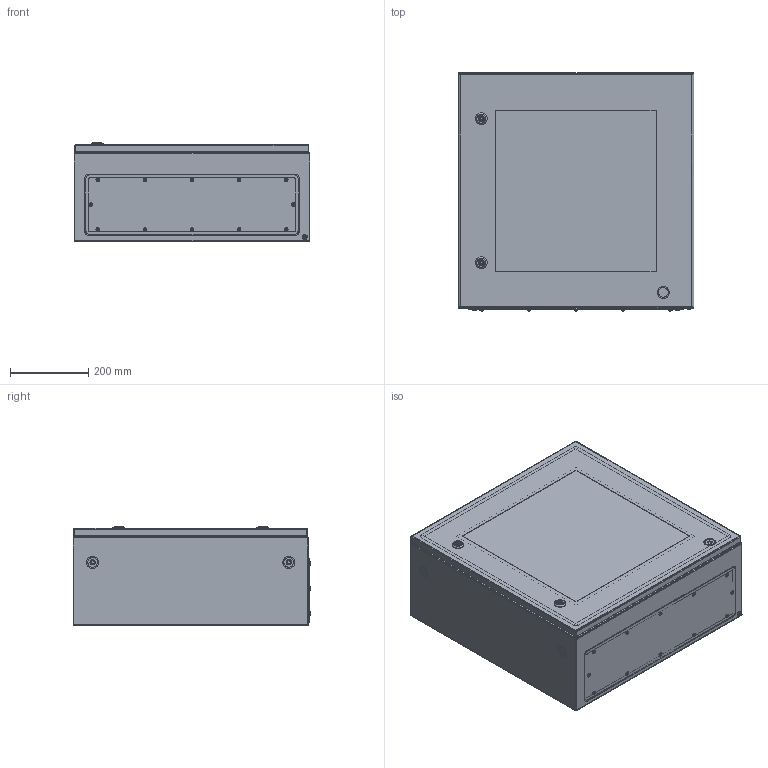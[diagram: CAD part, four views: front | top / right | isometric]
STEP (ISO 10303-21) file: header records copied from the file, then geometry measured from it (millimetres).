
FILE_DESCRIPTION (( 'STEP AP214' ), '1' );
FILE_NAME ('CCV 60.60.25.STEP', '2025-09-18T13:42:43', ( '' ), ( '' ), 'SwSTEP 2.0', 'SolidWorks 2019', '' );
FILE_SCHEMA (( 'AUTOMOTIVE_DESIGN' ));
Length unit declared in the file: millimetre
Products named in the file (28): Essentra_d9.3_055009300003; Øïèëüêà çàçåìëåíèÿ Ì6õ17,5_˜¯¨«ìª  § §¥¬«¥­¨ï Œ6å17,5; Çàìîê LC 5DB.S_‡ ¬®ª LC 5DB.S_45mm; CCV X.Y.02.000蚜 拟屦黖CCV 60.60; CCS X.Y.Z.01.000捘 扻豵鵨_CCS 60.60.25; PKV Y.15 相礤朦 赅徨朦眍泐 忖钿郷PKV 60(15); CCS X.Y.Z.01.001 扻豵鵨_CCS 60.60.25; KIT_Çàæèìíîå êîëüöî_ïîëèîêñèìåòèëåí_ô5_EMKA 1031-U16; Ïåòëÿ KIT_Ìîäóëü_êîðïóñíàÿ ÷àñòü; Ïåòëÿ KIT_Ìîäóëü_êîðïóñíàÿ ÷àñòü â ñáîðå; ﾇ瑟鶴 LC 5DB.S; Ïåòëÿ ïðèâàðíàÿ ÷àñòü; Essentra_d6,3_1287228; ßçû÷îê çàìêà LC 5DB.S; CCV X.Y.02.002 栺樏鋋_CCV 60.60; CCV X.Y.02.001 拟屦黖CCV 60.60; Øïèëüêà Ì8õ25; pan head cross recess screw_din_DIN EN ISO 7045 - M5 x 6 - Z - 6N; CCV 60.60.25; hex flange nut_din_Hexagon Flange Nut DIN 6923 - M8 - N; plain washer grade a_din_Washer DIN 125 - A 5.3; Ãàéêà Ì8 DIN 934; Øïèëüêà çàçåìëåíèÿ Ì6õ17,5_˜¯¨«ìª  § §¥¬«¥­¨ï Œ6å17,5 á ª®«¯ çª®¬; KIT_Øòèôò_ô5_Ìîäóëü; Âèíò ðåçüáîâûäàâëèâàþùèé ñ ïîëóïîòàéíîé ãîëîâêîé Ì5õ12; MPC X.Y Ïàíåëü ìîíòàæíàÿ_MPC 60.60
Assembly tree (61 placements, depth 3):
  CCV 60.60.25
    CCS X.Y.Z.01.000捘 扻豵鵨_CCS 60.60.25
      CCS X.Y.Z.01.001 扻豵鵨_CCS 60.60.25
      Øïèëüêà çàçåìëåíèÿ Ì6õ17,5_˜¯¨«ìª  § §¥¬«¥­¨ï Œ6å17,5  x4
      Øïèëüêà Ì8õ25  x4
    Ïåòëÿ KIT_Ìîäóëü_êîðïóñíàÿ ÷àñòü â ñáîðå
      Ïåòëÿ KIT_Ìîäóëü_êîðïóñíàÿ ÷àñòü
      KIT_Øòèôò_ô5_Ìîäóëü
      KIT_Çàæèìíîå êîëüöî_ïîëèîêñèìåòèëåí_ô5_EMKA 1031-U16
    Ïåòëÿ KIT_Ìîäóëü_êîðïóñíàÿ ÷àñòü â ñáîðå
      Ïåòëÿ KIT_Ìîäóëü_êîðïóñíàÿ ÷àñòü
      KIT_Øòèôò_ô5_Ìîäóëü
      KIT_Çàæèìíîå êîëüöî_ïîëèîêñèìåòèëåí_ô5_EMKA 1031-U16
    CCV X.Y.02.000蚜 拟屦黖CCV 60.60
      CCV X.Y.02.001 拟屦黖CCV 60.60
      Øïèëüêà çàçåìëåíèÿ Ì6õ17,5_˜¯¨«ìª  § §¥¬«¥­¨ï Œ6å17,5 á ª®«¯ çª®¬
      CCV X.Y.02.002 栺樏鋋_CCV 60.60
      Ïåòëÿ ïðèâàðíàÿ ÷àñòü  x2
    MPC X.Y Ïàíåëü ìîíòàæíàÿ_MPC 60.60
    PKV Y.15 相礤朦 赅徨朦眍泐 忖钿郷PKV 60(15)
    pan head cross recess screw_din_DIN EN ISO 7045 - M5 x 6 - Z - 6N  x2
    plain washer grade a_din_Washer DIN 125 - A 5.3  x2
    Ãàéêà Ì8 DIN 934  x4
    hex flange nut_din_Hexagon Flange Nut DIN 6923 - M8 - N  x4
    Âèíò ðåçüáîâûäàâëèâàþùèé ñ ïîëóïîòàéíîé ãîëîâêîé Ì5õ12  x14
    Essentra_d9.3_055009300003
    Essentra_d6,3_1287228  x2
    Çàìîê LC 5DB.S_‡ ¬®ª LC 5DB.S_45mm
      ﾇ瑟鶴 LC 5DB.S
      ßçû÷îê çàìêà LC 5DB.S
    Çàìîê LC 5DB.S_‡ ¬®ª LC 5DB.S_45mm
      ﾇ瑟鶴 LC 5DB.S
      ßçû÷îê çàìêà LC 5DB.S
Bounding box: 600 x 606.62 x 253.65 mm (x, y, z)
Volume: 3300842.9 mm3; surface area: 3674629.9 mm2
Topology: 59 solids, 59 shells, 2530 faces, 6304 edges, 3914 vertices
Faces by surface type: plane 998, cylinder 905, cone 306, bspline 144, torus 132, sphere 45
Entity records: 50901 total; most frequent: CARTESIAN_POINT 20370, ORIENTED_EDGE 6038, DIRECTION 5952, EDGE_CURVE 3019, AXIS2_PLACEMENT_3D 2226, VERTEX_POINT 1875, VECTOR 1500, LINE 1500
